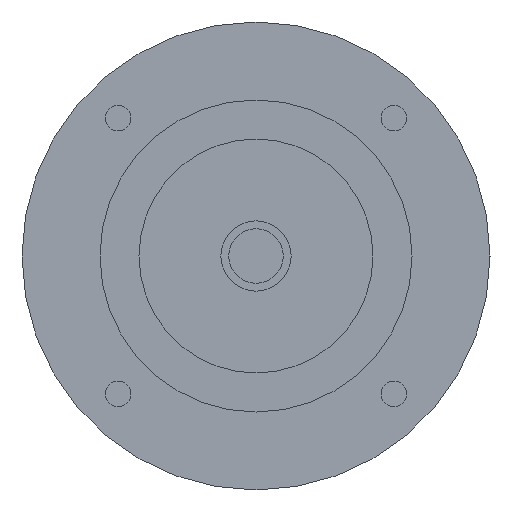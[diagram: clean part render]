
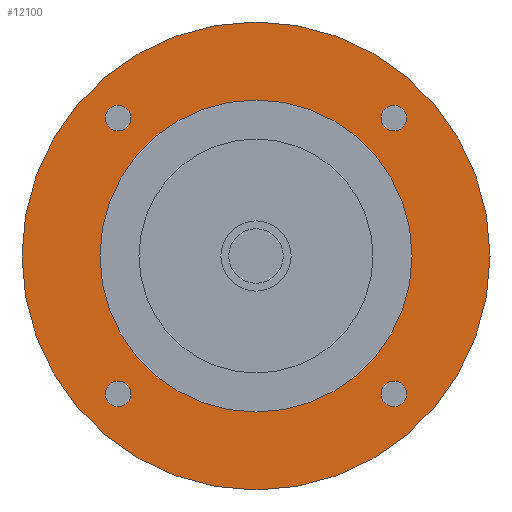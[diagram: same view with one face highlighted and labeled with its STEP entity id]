
A CAD part, left-side view. The second image highlights one B-rep face of the part: STEP entity #12100.
In plain terms, the highlighted planar face has unit normal (-1, 0, 0) as drawn and (0, 0, -1) by its records, which use the part's own axes.
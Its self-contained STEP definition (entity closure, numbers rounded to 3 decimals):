
#8610=CARTESIAN_POINT('',(60.,0.,-47.001));
#8620=VERTEX_POINT('',#8610);
#8650=CARTESIAN_POINT('',(0.,0.,
-47.001));
#8660=DIRECTION('',(0.,0.,-1.));
#8670=DIRECTION('',(0.,-1.,0.));
#8680=AXIS2_PLACEMENT_3D('',#8650,#8660,#8670);
#8690=CIRCLE('',#8680,60.);
#8700=CARTESIAN_POINT('',(0.,-60.,-47.001));
#8710=VERTEX_POINT('',#8700);
#8720=EDGE_CURVE('',#8620,#8710,#8690,.T.);
#8740=CARTESIAN_POINT('',(-60.,0.,-47.001));
#8750=VERTEX_POINT('',#8740);
#8760=EDGE_CURVE('',#8710,#8750,#8690,.T.);
#11070=CARTESIAN_POINT('',(-35.355,-32.105,-47.001))
;
#11080=VERTEX_POINT('',#11070);
#11110=CARTESIAN_POINT('',(-35.355,-35.355,-47.001))
;
#11120=DIRECTION('',(0.,0.,-1.));
#11130=DIRECTION('',(0.,-1.,0.));
#11140=AXIS2_PLACEMENT_3D('',#11110,#11120,#11130);
#11150=CIRCLE('',#11140,3.25);
#11160=CARTESIAN_POINT('',(-35.355,-38.605,-47.001))
;
#11170=VERTEX_POINT('',#11160);
#11180=EDGE_CURVE('',#11170,#11080,#11150,.T.);
#11300=CARTESIAN_POINT('',(0.,0.,
-47.001));
#11310=DIRECTION('',(0.,0.,-1.));
#11320=DIRECTION('',(1.,0.,0.));
#11330=AXIS2_PLACEMENT_3D('',#11300,#11310,#11320);
#11340=PLANE('',#11330);
#11350=CARTESIAN_POINT('',(35.355,35.355,-47.001));
#11360=DIRECTION('',(0.,0.,-1.));
#11370=DIRECTION('',(0.,1.,0.));
#11380=AXIS2_PLACEMENT_3D('',#11350,#11360,#11370);
#11390=CIRCLE('',#11380,3.25);
#11400=CARTESIAN_POINT('',(35.355,38.605,-47.001));
#11410=VERTEX_POINT('',#11400);
#11420=CARTESIAN_POINT('',(35.355,32.105,-47.001));
#11430=VERTEX_POINT('',#11420);
#11440=EDGE_CURVE('',#11410,#11430,#11390,.T.);
#11450=ORIENTED_EDGE('',*,*,#11440,.F.);
#11460=EDGE_CURVE('',#11430,#11410,#11390,.T.);
#11470=ORIENTED_EDGE('',*,*,#11460,.F.);
#11480=EDGE_LOOP('',(#11470,#11450));
#11490=FACE_BOUND('',#11480,.T.);
#11500=CARTESIAN_POINT('',(-35.355,35.355,-47.001));
#11510=DIRECTION('',(0.,0.,-1.));
#11520=DIRECTION('',(-1.,0.,0.));
#11530=AXIS2_PLACEMENT_3D('',#11500,#11510,#11520);
#11540=CIRCLE('',#11530,3.25);
#11550=CARTESIAN_POINT('',(-38.605,35.355,-47.001));
#11560=VERTEX_POINT('',#11550);
#11570=CARTESIAN_POINT('',(-32.105,35.355,-47.001));
#11580=VERTEX_POINT('',#11570);
#11590=EDGE_CURVE('',#11560,#11580,#11540,.T.);
#11600=ORIENTED_EDGE('',*,*,#11590,.F.);
#11610=EDGE_CURVE('',#11580,#11560,#11540,.T.);
#11620=ORIENTED_EDGE('',*,*,#11610,.F.);
#11630=EDGE_LOOP('',(#11620,#11600));
#11640=FACE_BOUND('',#11630,.T.);
#11650=ORIENTED_EDGE('',*,*,#11180,.F.);
#11660=EDGE_CURVE('',#11080,#11170,#11150,.T.);
#11670=ORIENTED_EDGE('',*,*,#11660,.F.);
#11680=EDGE_LOOP('',(#11670,#11650));
#11690=FACE_BOUND('',#11680,.T.);
#11700=CARTESIAN_POINT('',(0.,0.,
-47.001));
#11710=DIRECTION('',(0.,0.,1.));
#11720=DIRECTION('',(0.,1.,0.));
#11730=AXIS2_PLACEMENT_3D('',#11700,#11710,#11720);
#11740=CIRCLE('',#11730,40.);
#11750=CARTESIAN_POINT('',(-40.,0.,-47.001));
#11760=VERTEX_POINT('',#11750);
#11770=CARTESIAN_POINT('',(40.,0.,-47.001));
#11780=VERTEX_POINT('',#11770);
#11790=EDGE_CURVE('',#11760,#11780,#11740,.T.);
#11800=ORIENTED_EDGE('',*,*,#11790,.T.);
#11810=CARTESIAN_POINT('',(0.,40.,-47.001));
#11820=VERTEX_POINT('',#11810);
#11830=EDGE_CURVE('',#11820,#11760,#11740,.T.);
#11840=ORIENTED_EDGE('',*,*,#11830,.T.);
#11850=EDGE_CURVE('',#11780,#11820,#11740,.T.);
#11860=ORIENTED_EDGE('',*,*,#11850,.T.);
#11870=EDGE_LOOP('',(#11860,#11840,#11800));
#11880=FACE_BOUND('',#11870,.T.);
#11890=CARTESIAN_POINT('',(35.355,-35.355,-47.001));
#11900=DIRECTION('',(0.,0.,-1.));
#11910=DIRECTION('',(1.,0.,0.));
#11920=AXIS2_PLACEMENT_3D('',#11890,#11900,#11910);
#11930=CIRCLE('',#11920,3.25);
#11940=CARTESIAN_POINT('',(38.605,-35.355,-47.001));
#11950=VERTEX_POINT('',#11940);
#11960=CARTESIAN_POINT('',(32.105,-35.355,-47.001));
#11970=VERTEX_POINT('',#11960);
#11980=EDGE_CURVE('',#11950,#11970,#11930,.T.);
#11990=ORIENTED_EDGE('',*,*,#11980,.F.);
#12000=EDGE_CURVE('',#11970,#11950,#11930,.T.);
#12010=ORIENTED_EDGE('',*,*,#12000,.F.);
#12020=EDGE_LOOP('',(#12010,#11990));
#12030=FACE_BOUND('',#12020,.T.);
#12040=EDGE_CURVE('',#8750,#8620,#8690,.T.);
#12050=ORIENTED_EDGE('',*,*,#12040,.T.);
#12060=ORIENTED_EDGE('',*,*,#8760,.T.);
#12070=ORIENTED_EDGE('',*,*,#8720,.T.);
#12080=EDGE_LOOP('',(#12070,#12060,#12050));
#12090=FACE_OUTER_BOUND('',#12080,.T.);
#12100=ADVANCED_FACE('',(#11490,#11640,#11690,#11880,#12030,#12090),
#11340,.T.);
